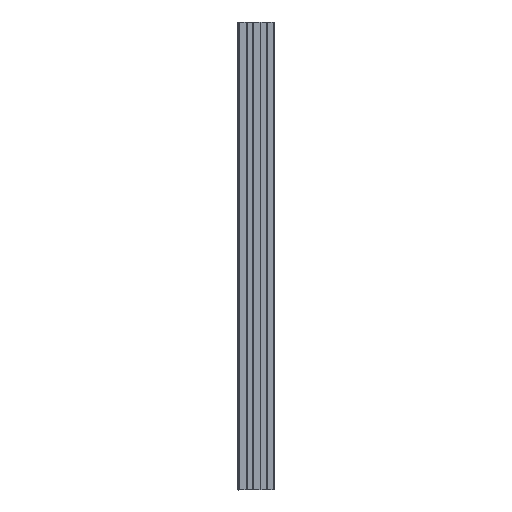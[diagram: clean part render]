
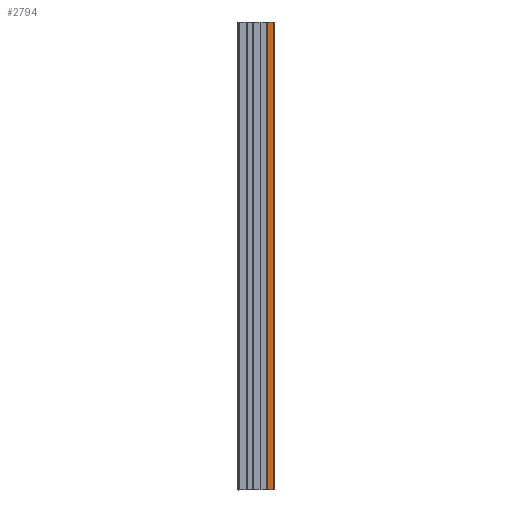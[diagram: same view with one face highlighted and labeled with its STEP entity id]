
A CAD part, left-side view. The second image highlights one B-rep face of the part: STEP entity #2794.
In plain terms, the highlighted planar face has unit normal (-1, 0, 0).
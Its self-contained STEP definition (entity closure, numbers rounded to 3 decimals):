
#41 = VECTOR ( 'NONE', #1199, 1000. ) ;
#85 = CARTESIAN_POINT ( 'NONE',  ( 413.243, -42.019, 450. ) ) ;
#93 = LINE ( 'NONE', #1895, #3016 ) ;
#940 = VERTEX_POINT ( 'NONE', #2612 ) ;
#1119 = VECTOR ( 'NONE', #3037, 1000. ) ;
#1164 = CARTESIAN_POINT ( 'NONE',  ( 413.243, -41.833, 500. ) ) ;
#1199 = DIRECTION ( 'NONE',  ( 0., 0., -1. ) ) ;
#1258 = EDGE_CURVE ( 'NONE', #3598, #940, #93, .T. ) ;
#1458 = CARTESIAN_POINT ( 'NONE',  ( 413.243, -41.833, -500. ) ) ;
#1497 = EDGE_LOOP ( 'NONE', ( #2899, #1848, #2994, #2463 ) ) ;
#1642 = DIRECTION ( 'NONE',  ( 0., 0., -1. ) ) ;
#1723 = VERTEX_POINT ( 'NONE', #1458 ) ;
#1807 = LINE ( 'NONE', #3371, #1119 ) ;
#1848 = ORIENTED_EDGE ( 'NONE', *, *, #1258, .F. ) ;
#1895 = CARTESIAN_POINT ( 'NONE',  ( 413.243, -54.019, 450. ) ) ;
#2158 = DIRECTION ( 'NONE',  ( -1., 0., 0. ) ) ;
#2174 = PLANE ( 'NONE',  #3710 ) ;
#2212 = VERTEX_POINT ( 'NONE', #1164 ) ;
#2247 = CARTESIAN_POINT ( 'NONE',  ( 413.243, -54.019, 500. ) ) ;
#2288 = CARTESIAN_POINT ( 'NONE',  ( 413.243, 18.481, -500. ) ) ;
#2463 = ORIENTED_EDGE ( 'NONE', *, *, #3147, .T. ) ;
#2612 = CARTESIAN_POINT ( 'NONE',  ( 413.243, -54.019, -500. ) ) ;
#2629 = DIRECTION ( 'NONE',  ( 0., -1., 0. ) ) ;
#2778 = DIRECTION ( 'NONE',  ( 0., 1., 0. ) ) ;
#2794 = ADVANCED_FACE ( 'NONE', ( #3699 ), #2174, .T. ) ;
#2899 = ORIENTED_EDGE ( 'NONE', *, *, #3518, .T. ) ;
#2994 = ORIENTED_EDGE ( 'NONE', *, *, #3065, .F. ) ;
#3016 = VECTOR ( 'NONE', #1642, 1000. ) ;
#3037 = DIRECTION ( 'NONE',  ( 0., -1., 0. ) ) ;
#3050 = CARTESIAN_POINT ( 'NONE',  ( 413.243, -41.833, 500. ) ) ;
#3065 = EDGE_CURVE ( 'NONE', #2212, #3598, #1807, .T. ) ;
#3068 = LINE ( 'NONE', #3050, #41 ) ;
#3147 = EDGE_CURVE ( 'NONE', #2212, #1723, #3068, .T. ) ;
#3371 = CARTESIAN_POINT ( 'NONE',  ( 413.243, 0., 500. ) ) ;
#3518 = EDGE_CURVE ( 'NONE', #1723, #940, #3808, .T. ) ;
#3598 = VERTEX_POINT ( 'NONE', #2247 ) ;
#3699 = FACE_OUTER_BOUND ( 'NONE', #1497, .T. ) ;
#3710 = AXIS2_PLACEMENT_3D ( 'NONE', #85, #2158, #2778 ) ;
#3723 = VECTOR ( 'NONE', #2629, 1000. ) ;
#3808 = LINE ( 'NONE', #2288, #3723 ) ;
